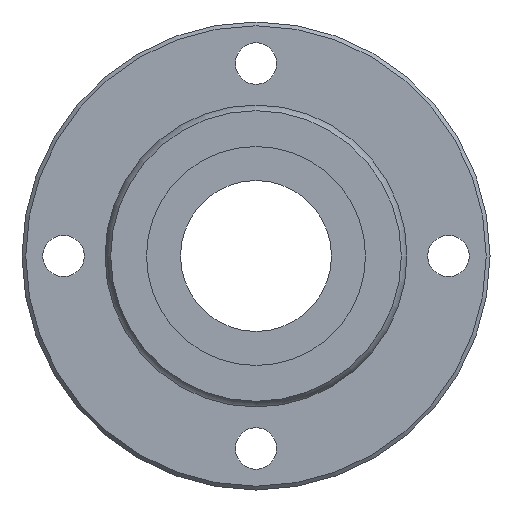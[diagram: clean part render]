
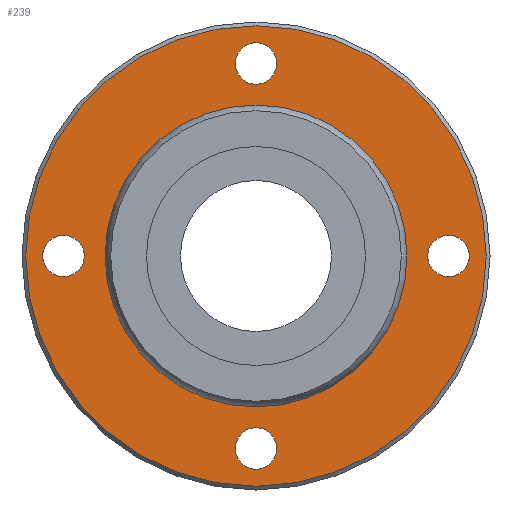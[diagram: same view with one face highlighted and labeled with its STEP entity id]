
A CAD part, left-side view. The second image highlights one B-rep face of the part: STEP entity #239.
In plain terms, the highlighted planar face has unit normal (-1, 0, 0).
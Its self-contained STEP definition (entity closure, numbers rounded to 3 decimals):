
#164=CARTESIAN_POINT('',(13.,0.,30.5));
#165=VERTEX_POINT('',#164);
#166=CARTESIAN_POINT('',(13.,0.0,0.0));
#167=DIRECTION('',(1.0,0.0,0.0));
#168=DIRECTION('',(0.0,0.0,-1.0));
#169=AXIS2_PLACEMENT_3D('',#166,#167,#168);
#170=CIRCLE('',#169,30.5);
#171=EDGE_CURVE('',#165,#165,#170,.T.);
#176=CARTESIAN_POINT('',(13.,0.0,25.282));
#177=DIRECTION('',(-1.0,0.0,0.0));
#178=DIRECTION('',(0.0,0.0,1.0));
#179=AXIS2_PLACEMENT_3D('',#176,#177,#178);
#180=PLANE('',#179);
#181=ORIENTED_EDGE('',*,*,#171,.F.);
#182=EDGE_LOOP('',(#181));
#183=FACE_OUTER_BOUND('',#182,.T.);
#184=CARTESIAN_POINT('',(13.,0.0,19.564));
#185=VERTEX_POINT('',#184);
#186=CARTESIAN_POINT('',(13.,0.0,0.0));
#187=DIRECTION('',(-1.0,0.0,0.0));
#188=DIRECTION('',(0.0,0.0,1.0));
#189=AXIS2_PLACEMENT_3D('',#186,#187,#188);
#190=CIRCLE('',#189,19.564);
#191=EDGE_CURVE('',#185,#185,#190,.T.);
#192=ORIENTED_EDGE('',*,*,#191,.F.);
#193=EDGE_LOOP('',(#192));
#194=FACE_BOUND('',#193,.T.);
#195=CARTESIAN_POINT('',(13.,-28.25,0.));
#196=VERTEX_POINT('',#195);
#197=CARTESIAN_POINT('',(13.,-25.5,0.));
#198=DIRECTION('',(1.0,0.0,0.0));
#199=DIRECTION('',(0.0,1.0,0.0));
#200=AXIS2_PLACEMENT_3D('',#197,#198,#199);
#201=CIRCLE('',#200,2.75);
#202=EDGE_CURVE('',#196,#196,#201,.T.);
#203=ORIENTED_EDGE('',*,*,#202,.T.);
#204=EDGE_LOOP('',(#203));
#205=FACE_BOUND('',#204,.T.);
#206=CARTESIAN_POINT('',(13.,22.75,0.));
#207=VERTEX_POINT('',#206);
#208=CARTESIAN_POINT('',(13.,25.5,0.));
#209=DIRECTION('',(1.0,0.0,0.0));
#210=DIRECTION('',(0.0,1.0,0.0));
#211=AXIS2_PLACEMENT_3D('',#208,#209,#210);
#212=CIRCLE('',#211,2.75);
#213=EDGE_CURVE('',#207,#207,#212,.T.);
#214=ORIENTED_EDGE('',*,*,#213,.T.);
#215=EDGE_LOOP('',(#214));
#216=FACE_BOUND('',#215,.T.);
#217=CARTESIAN_POINT('',(13.,-2.75,25.5));
#218=VERTEX_POINT('',#217);
#219=CARTESIAN_POINT('',(13.,0.,25.5));
#220=DIRECTION('',(1.0,0.0,0.0));
#221=DIRECTION('',(0.0,1.0,0.0));
#222=AXIS2_PLACEMENT_3D('',#219,#220,#221);
#223=CIRCLE('',#222,2.75);
#224=EDGE_CURVE('',#218,#218,#223,.T.);
#225=ORIENTED_EDGE('',*,*,#224,.T.);
#226=EDGE_LOOP('',(#225));
#227=FACE_BOUND('',#226,.T.);
#228=CARTESIAN_POINT('',(13.,-2.75,-25.5));
#229=VERTEX_POINT('',#228);
#230=CARTESIAN_POINT('',(13.,0.,-25.5));
#231=DIRECTION('',(1.0,0.0,0.0));
#232=DIRECTION('',(0.0,1.0,0.0));
#233=AXIS2_PLACEMENT_3D('',#230,#231,#232);
#234=CIRCLE('',#233,2.75);
#235=EDGE_CURVE('',#229,#229,#234,.T.);
#236=ORIENTED_EDGE('',*,*,#235,.T.);
#237=EDGE_LOOP('',(#236));
#238=FACE_BOUND('',#237,.T.);
#239=ADVANCED_FACE('',(#183,#194,#205,#216,#227,#238),#180,.T.);
